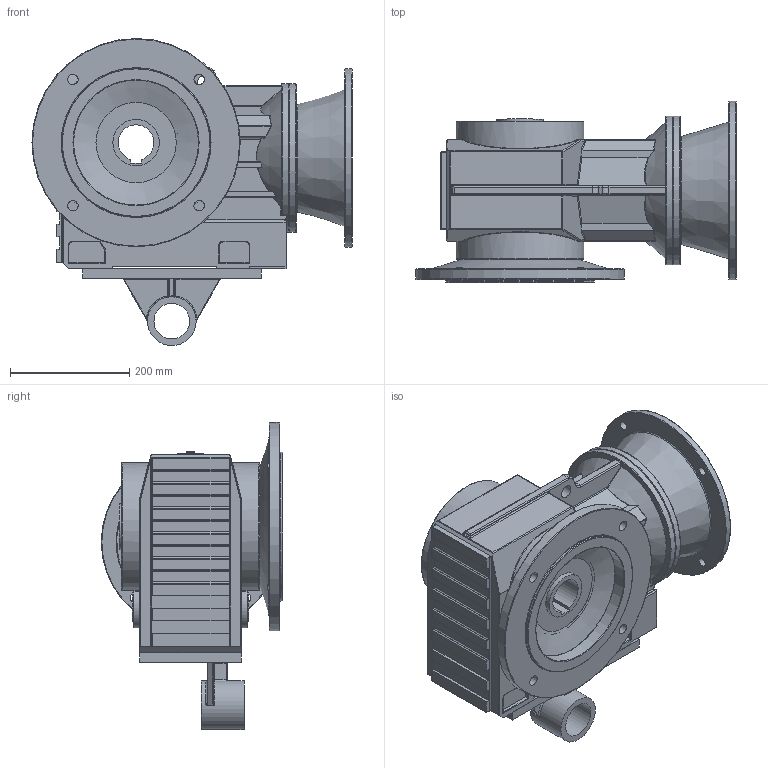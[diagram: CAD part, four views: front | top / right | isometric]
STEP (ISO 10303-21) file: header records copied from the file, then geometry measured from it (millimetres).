
FILE_DESCRIPTION((''),'2;1');
FILE_NAME('F:\PAWEŁ\ZLECENIA\2011 DualSystem\Przekładnie DK\001 Modele\DKAB80_\DK_80_STEP\DK_A_80_AF_AT_132_B5_L106.stp','2012-06-26T19:12:25',('admin'),(''),'Autodesk Inventor 2009','Autodesk Inventor 2009','');
FILE_SCHEMA(('AUTOMOTIVE_DESIGN { 1 0 10303 214 1 1 1 1 }'));
Length unit declared in the file: millimetre
Products named in the file (5): DK_A_80_AF_AT_132_B5_L106 (Poziom szczegółów1); DK_A_80; 132_B5_L106; AF_F_80; AT_80
Assembly tree (4 placements, depth 2):
  DK_A_80_AF_AT_132_B5_L106 (Poziom szczegółów1)
    DK_A_80
    132_B5_L106
    AF_F_80
    AT_80
Bounding box: 538 x 305 x 516 mm (x, y, z)
Volume: 24975364.8 mm3; surface area: 1338933.6 mm2
Topology: 4 solids, 4 shells, 574 faces, 1394 edges, 830 vertices
Faces by surface type: cylinder 199, bspline 167, plane 149, torus 42, sphere 11, cone 6
Full cylindrical faces by diameter (mm): 13.835 x4, 16 x4, 22 x1, 50 x1, 60 x1, 62 x1, 78 x1, 82 x1, 145 x1, 180 x1, 210 x1, 217.455 x1, 230 x1, 250 x3, 300 x1, 350 x1
Entity records: 24765 total; most frequent: CARTESIAN_POINT 12026, ORIENTED_EDGE 2630, DIRECTION 2522, EDGE_CURVE 1315, AXIS2_PLACEMENT_3D 995, VERTEX_POINT 824, EDGE_LOOP 681, FACE_OUTER_BOUND 574
